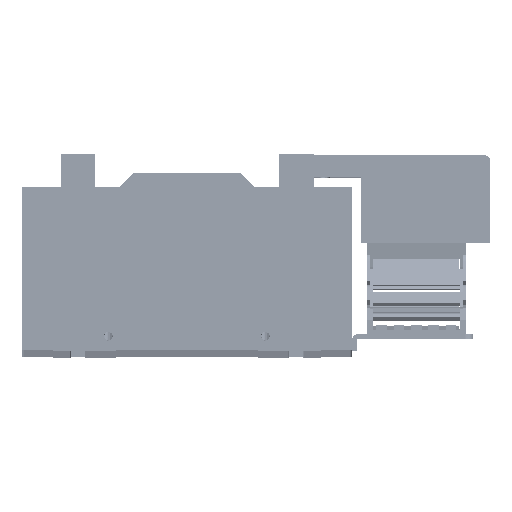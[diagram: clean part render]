
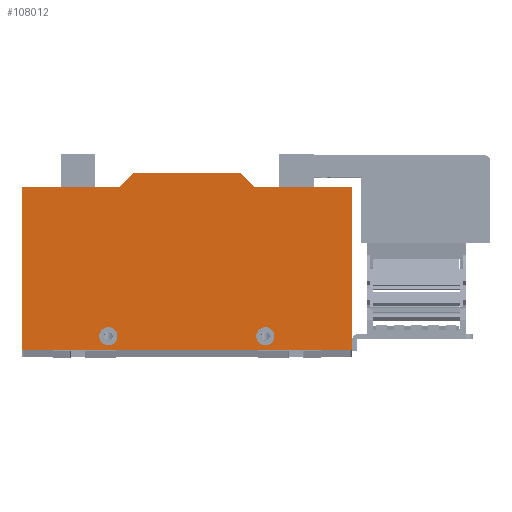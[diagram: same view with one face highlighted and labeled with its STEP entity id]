
A CAD part, top view. The second image highlights one B-rep face of the part: STEP entity #108012.
In plain terms, the highlighted planar face has unit normal (0, 0, 1) as drawn and (0, 0, -1) by its records, which use the part's own axes.
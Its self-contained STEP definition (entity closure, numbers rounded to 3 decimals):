
#107228 = VERTEX_POINT ( 'NONE', #141233 ) ;
#107240 = EDGE_CURVE ( 'NONE', #107228, #107246, #141291, .T. ) ;
#107246 = VERTEX_POINT ( 'NONE', #141284 ) ;
#107586 = VERTEX_POINT ( 'NONE', #141659 ) ;
#107639 = EDGE_CURVE ( 'NONE', #107586, #107642, #141691, .T. ) ;
#107642 = VERTEX_POINT ( 'NONE', #141747 ) ;
#107883 = ORIENTED_EDGE ( 'NONE', *, *, #107639, .F. ) ;
#107887 = EDGE_LOOP ( 'NONE', ( #108574, #108998 ) ) ;
#107931 = EDGE_CURVE ( 'NONE', #107934, #107938, #141992, .T. ) ;
#107934 = VERTEX_POINT ( 'NONE', #141988 ) ;
#107938 = VERTEX_POINT ( 'NONE', #141980 ) ;
#108012 = ADVANCED_FACE ( 'NONE', ( #142130, #142129, #142128 ), #142127, .F. ) ;
#108018 = EDGE_LOOP ( 'NONE', ( #108024, #107883 ) ) ;
#108024 = ORIENTED_EDGE ( 'NONE', *, *, #108029, .F. ) ;
#108029 = EDGE_CURVE ( 'NONE', #107642, #107586, #142110, .T. ) ;
#108110 = VERTEX_POINT ( 'NONE', #142245 ) ;
#108128 = EDGE_CURVE ( 'NONE', #107938, #108110, #142226, .T. ) ;
#108189 = EDGE_CURVE ( 'NONE', #108387, #108278, #142350, .T. ) ;
#108224 = EDGE_CURVE ( 'NONE', #108345, #107934, #142379, .T. ) ;
#108278 = VERTEX_POINT ( 'NONE', #142387 ) ;
#108345 = VERTEX_POINT ( 'NONE', #142470 ) ;
#108387 = VERTEX_POINT ( 'NONE', #142597 ) ;
#108574 = ORIENTED_EDGE ( 'NONE', *, *, #108581, .F. ) ;
#108581 = EDGE_CURVE ( 'NONE', #107246, #107228, #142965, .T. ) ;
#108646 = ORIENTED_EDGE ( 'NONE', *, *, #108189, .T. ) ;
#108656 = ORIENTED_EDGE ( 'NONE', *, *, #108939, .F. ) ;
#108704 = ORIENTED_EDGE ( 'NONE', *, *, #108128, .T. ) ;
#108711 = ORIENTED_EDGE ( 'NONE', *, *, #108931, .F. ) ;
#108931 = EDGE_CURVE ( 'NONE', #108933, #108110, #143722, .T. ) ;
#108933 = VERTEX_POINT ( 'NONE', #143714 ) ;
#108939 = EDGE_CURVE ( 'NONE', #108945, #108278, #143699, .T. ) ;
#108945 = VERTEX_POINT ( 'NONE', #143691 ) ;
#108948 = ORIENTED_EDGE ( 'NONE', *, *, #108950, .F. ) ;
#108950 = EDGE_CURVE ( 'NONE', #108345, #108945, #143685, .T. ) ;
#108958 = ORIENTED_EDGE ( 'NONE', *, *, #108965, .F. ) ;
#108965 = EDGE_CURVE ( 'NONE', #108387, #108933, #143775, .T. ) ;
#108998 = ORIENTED_EDGE ( 'NONE', *, *, #107240, .F. ) ;
#109004 = EDGE_LOOP ( 'NONE', ( #108704, #108711, #108958, #108646, #108656, #108948, #109065, #109073 ) ) ;
#109065 = ORIENTED_EDGE ( 'NONE', *, *, #108224, .T. ) ;
#109073 = ORIENTED_EDGE ( 'NONE', *, *, #107931, .T. ) ;
#141233 = CARTESIAN_POINT ( 'NONE',  ( -29.691, 76.299, 0. ) ) ;
#141284 = CARTESIAN_POINT ( 'NONE',  ( -40.191, 76.299, 0. ) ) ;
#141286 = DIRECTION ( 'NONE',  ( -1., 0., 0. ) ) ;
#141287 = DIRECTION ( 'NONE',  ( 0., 0., -1. ) ) ;
#141289 = CARTESIAN_POINT ( 'NONE',  ( -34.941, 76.299, 0. ) ) ;
#141290 = AXIS2_PLACEMENT_3D ( 'NONE', #141289, #141287, #141286 ) ;
#141291 = CIRCLE ( 'NONE', #141290, 5.25 ) ;
#141659 = CARTESIAN_POINT ( 'NONE',  ( -120.191, 76.299, 0. ) ) ;
#141691 = CIRCLE ( 'NONE', #141751, 5.25 ) ;
#141747 = CARTESIAN_POINT ( 'NONE',  ( -130.691, 76.299, 0. ) ) ;
#141748 = DIRECTION ( 'NONE',  ( -1., 0., 0. ) ) ;
#141749 = DIRECTION ( 'NONE',  ( 0., 0., -1. ) ) ;
#141750 = CARTESIAN_POINT ( 'NONE',  ( -125.441, 76.299, 0. ) ) ;
#141751 = AXIS2_PLACEMENT_3D ( 'NONE', #141750, #141749, #141748 ) ;
#141980 = CARTESIAN_POINT ( 'NONE',  ( 14.809, 84.299, 0. ) ) ;
#141988 = CARTESIAN_POINT ( 'NONE',  ( -175.191, 84.299, 0. ) ) ;
#141989 = DIRECTION ( 'NONE',  ( 1., 0., 0. ) ) ;
#141990 = VECTOR ( 'NONE', #141989, 1000. ) ;
#141991 = CARTESIAN_POINT ( 'NONE',  ( -175.191, 84.299, 0. ) ) ;
#141992 = LINE ( 'NONE', #141991, #141990 ) ;
#142106 = DIRECTION ( 'NONE',  ( -1., 0., 0. ) ) ;
#142107 = DIRECTION ( 'NONE',  ( 0., 0., -1. ) ) ;
#142108 = CARTESIAN_POINT ( 'NONE',  ( -125.441, 76.299, 0. ) ) ;
#142109 = AXIS2_PLACEMENT_3D ( 'NONE', #142108, #142107, #142106 ) ;
#142110 = CIRCLE ( 'NONE', #142109, 5.25 ) ;
#142123 = DIRECTION ( 'NONE',  ( 1., 0., 0. ) ) ;
#142124 = DIRECTION ( 'NONE',  ( 0., 0., 1. ) ) ;
#142125 = CARTESIAN_POINT ( 'NONE',  ( -175.191, 84.299, 0. ) ) ;
#142126 = AXIS2_PLACEMENT_3D ( 'NONE', #142125, #142124, #142123 ) ;
#142127 = PLANE ( 'NONE',  #142126 ) ;
#142128 = FACE_OUTER_BOUND ( 'NONE', #109004, .T. ) ;
#142129 = FACE_BOUND ( 'NONE', #107887, .T. ) ;
#142130 = FACE_BOUND ( 'NONE', #108018, .T. ) ;
#142223 = DIRECTION ( 'NONE',  ( 0., -1., 0. ) ) ;
#142224 = VECTOR ( 'NONE', #142223, 1000. ) ;
#142225 = CARTESIAN_POINT ( 'NONE',  ( 14.809, 84.299, 0. ) ) ;
#142226 = LINE ( 'NONE', #142225, #142224 ) ;
#142245 = CARTESIAN_POINT ( 'NONE',  ( 14.809, -9.701, 0. ) ) ;
#142347 = DIRECTION ( 'NONE',  ( -1., 0., 0. ) ) ;
#142348 = VECTOR ( 'NONE', #142347, 1000. ) ;
#142349 = CARTESIAN_POINT ( 'NONE',  ( 14.809, -17.701, 0. ) ) ;
#142350 = LINE ( 'NONE', #142349, #142348 ) ;
#142376 = DIRECTION ( 'NONE',  ( 0., 1., 0. ) ) ;
#142377 = VECTOR ( 'NONE', #142376, 1000. ) ;
#142378 = CARTESIAN_POINT ( 'NONE',  ( -175.191, -17.701, 0. ) ) ;
#142379 = LINE ( 'NONE', #142378, #142377 ) ;
#142387 = CARTESIAN_POINT ( 'NONE',  ( -111.191, -17.701, 0. ) ) ;
#142470 = CARTESIAN_POINT ( 'NONE',  ( -175.191, -9.701, 0. ) ) ;
#142597 = CARTESIAN_POINT ( 'NONE',  ( -49.191, -17.701, 0. ) ) ;
#142958 = DIRECTION ( 'NONE',  ( -1., 0., 0. ) ) ;
#142959 = DIRECTION ( 'NONE',  ( 0., 0., -1. ) ) ;
#142961 = CARTESIAN_POINT ( 'NONE',  ( -34.941, 76.299, 0. ) ) ;
#142963 = AXIS2_PLACEMENT_3D ( 'NONE', #142961, #142959, #142958 ) ;
#142965 = CIRCLE ( 'NONE', #142963, 5.25 ) ;
#143682 = DIRECTION ( 'NONE',  ( 1., 0., 0. ) ) ;
#143683 = VECTOR ( 'NONE', #143682, 1000. ) ;
#143684 = CARTESIAN_POINT ( 'NONE',  ( -119.191, -9.701, 0. ) ) ;
#143685 = LINE ( 'NONE', #143684, #143683 ) ;
#143691 = CARTESIAN_POINT ( 'NONE',  ( -119.191, -9.701, 0. ) ) ;
#143694 = DIRECTION ( 'NONE',  ( 0.707, -0.707, 0. ) ) ;
#143696 = VECTOR ( 'NONE', #143694, 1000. ) ;
#143698 = CARTESIAN_POINT ( 'NONE',  ( -111.191, -17.701, 0. ) ) ;
#143699 = LINE ( 'NONE', #143698, #143696 ) ;
#143714 = CARTESIAN_POINT ( 'NONE',  ( -41.191, -9.701, 0. ) ) ;
#143715 = DIRECTION ( 'NONE',  ( 1., 0., 0. ) ) ;
#143716 = VECTOR ( 'NONE', #143715, 1000. ) ;
#143719 = CARTESIAN_POINT ( 'NONE',  ( 14.809, -9.701, 0. ) ) ;
#143722 = LINE ( 'NONE', #143719, #143716 ) ;
#143772 = DIRECTION ( 'NONE',  ( 0.707, 0.707, 0. ) ) ;
#143773 = VECTOR ( 'NONE', #143772, 1000. ) ;
#143774 = CARTESIAN_POINT ( 'NONE',  ( -41.191, -9.701, 0. ) ) ;
#143775 = LINE ( 'NONE', #143774, #143773 ) ;
